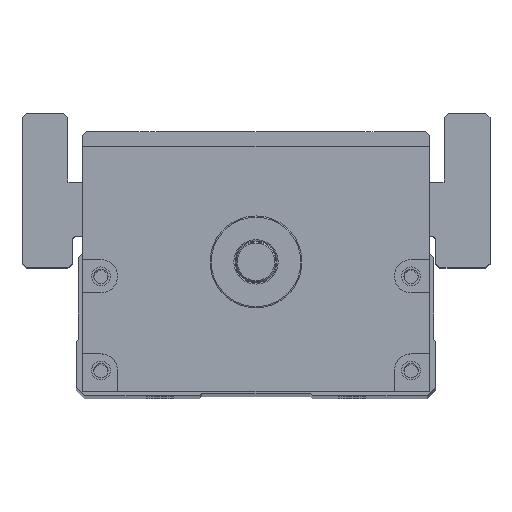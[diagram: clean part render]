
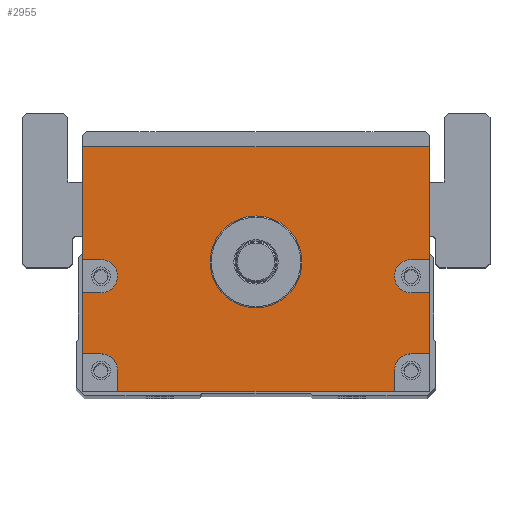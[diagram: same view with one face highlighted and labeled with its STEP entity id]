
A CAD part, top view. The second image highlights one B-rep face of the part: STEP entity #2955.
In plain terms, the highlighted planar face has unit normal (0, 0, 1).
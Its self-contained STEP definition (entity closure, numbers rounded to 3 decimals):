
#611=LINE('',#24771,#1400);
#613=LINE('',#24779,#1402);
#614=LINE('',#24782,#1403);
#615=LINE('',#24784,#1404);
#616=LINE('',#24788,#1405);
#617=LINE('',#24790,#1406);
#618=LINE('',#24791,#1407);
#619=LINE('',#24793,#1408);
#620=LINE('',#24797,#1409);
#621=LINE('',#24799,#1410);
#622=LINE('',#24801,#1411);
#623=LINE('',#24805,#1412);
#624=LINE('',#24807,#1413);
#625=LINE('',#24809,#1414);
#1400=VECTOR('',#13047,1.);
#1402=VECTOR('',#13055,1.);
#1403=VECTOR('',#13056,1.);
#1404=VECTOR('',#13057,1.);
#1405=VECTOR('',#13060,1.);
#1406=VECTOR('',#13061,1.);
#1407=VECTOR('',#13062,1.);
#1408=VECTOR('',#13063,1.);
#1409=VECTOR('',#13066,1.);
#1410=VECTOR('',#13067,1.);
#1411=VECTOR('',#13068,1.);
#1412=VECTOR('',#13071,1.);
#1413=VECTOR('',#13072,1.);
#1414=VECTOR('',#13073,1.);
#2955=ADVANCED_FACE('',(#3924,#3925),#3483,.T.);
#3483=PLANE('',#11471);
#3924=FACE_BOUND('',#4539,.T.);
#3925=FACE_BOUND('',#4540,.T.);
#4539=EDGE_LOOP('',(#6089,#6090,#6091,#6092,#6093,#6094,#6095,#6096,#6097,
#6098,#6099,#6100,#6101,#6102,#6103,#6104,#6105,#6106));
#4540=EDGE_LOOP('',(#6107));
#6089=ORIENTED_EDGE('',*,*,#9674,.F.);
#6090=ORIENTED_EDGE('',*,*,#9675,.T.);
#6091=ORIENTED_EDGE('',*,*,#9676,.F.);
#6092=ORIENTED_EDGE('',*,*,#9677,.F.);
#6093=ORIENTED_EDGE('',*,*,#9678,.F.);
#6094=ORIENTED_EDGE('',*,*,#9679,.T.);
#6095=ORIENTED_EDGE('',*,*,#9670,.T.);
#6096=ORIENTED_EDGE('',*,*,#9680,.T.);
#6097=ORIENTED_EDGE('',*,*,#9681,.F.);
#6098=ORIENTED_EDGE('',*,*,#9682,.F.);
#6099=ORIENTED_EDGE('',*,*,#9683,.F.);
#6100=ORIENTED_EDGE('',*,*,#9684,.T.);
#6101=ORIENTED_EDGE('',*,*,#9685,.F.);
#6102=ORIENTED_EDGE('',*,*,#9686,.F.);
#6103=ORIENTED_EDGE('',*,*,#9687,.F.);
#6104=ORIENTED_EDGE('',*,*,#9688,.T.);
#6105=ORIENTED_EDGE('',*,*,#9689,.F.);
#6106=ORIENTED_EDGE('',*,*,#9690,.F.);
#6107=ORIENTED_EDGE('',*,*,#9656,.T.);
#8465=VERTEX_POINT('',#24742);
#8478=VERTEX_POINT('',#24770);
#8479=VERTEX_POINT('',#24772);
#8482=VERTEX_POINT('',#24780);
#8483=VERTEX_POINT('',#24781);
#8484=VERTEX_POINT('',#24783);
#8485=VERTEX_POINT('',#24785);
#8486=VERTEX_POINT('',#24787);
#8487=VERTEX_POINT('',#24789);
#8488=VERTEX_POINT('',#24792);
#8489=VERTEX_POINT('',#24794);
#8490=VERTEX_POINT('',#24796);
#8491=VERTEX_POINT('',#24798);
#8492=VERTEX_POINT('',#24800);
#8493=VERTEX_POINT('',#24802);
#8494=VERTEX_POINT('',#24804);
#8495=VERTEX_POINT('',#24806);
#8496=VERTEX_POINT('',#24808);
#8497=VERTEX_POINT('',#24810);
#9656=EDGE_CURVE('',#8465,#8465,#10834,.T.);
#9670=EDGE_CURVE('',#8479,#8478,#611,.T.);
#9674=EDGE_CURVE('',#8482,#8483,#613,.T.);
#9675=EDGE_CURVE('',#8482,#8484,#614,.T.);
#9676=EDGE_CURVE('',#8485,#8484,#615,.T.);
#9677=EDGE_CURVE('',#8486,#8485,#10845,.T.);
#9678=EDGE_CURVE('',#8487,#8486,#616,.T.);
#9679=EDGE_CURVE('',#8487,#8479,#617,.T.);
#9680=EDGE_CURVE('',#8478,#8488,#618,.T.);
#9681=EDGE_CURVE('',#8489,#8488,#619,.T.);
#9682=EDGE_CURVE('',#8490,#8489,#10846,.T.);
#9683=EDGE_CURVE('',#8491,#8490,#620,.T.);
#9684=EDGE_CURVE('',#8491,#8492,#621,.T.);
#9685=EDGE_CURVE('',#8493,#8492,#622,.T.);
#9686=EDGE_CURVE('',#8494,#8493,#10847,.T.);
#9687=EDGE_CURVE('',#8495,#8494,#623,.T.);
#9688=EDGE_CURVE('',#8495,#8496,#624,.T.);
#9689=EDGE_CURVE('',#8497,#8496,#625,.T.);
#9690=EDGE_CURVE('',#8483,#8497,#10848,.T.);
#10834=CIRCLE('',#11453,11.);
#10845=CIRCLE('',#11467,4.);
#10846=CIRCLE('',#11468,4.);
#10847=CIRCLE('',#11469,4.);
#10848=CIRCLE('',#11470,4.);
#11453=AXIS2_PLACEMENT_3D('',#24741,#13020,#13021);
#11467=AXIS2_PLACEMENT_3D('',#24786,#13058,#13059);
#11468=AXIS2_PLACEMENT_3D('',#24795,#13064,#13065);
#11469=AXIS2_PLACEMENT_3D('',#24803,#13069,#13070);
#11470=AXIS2_PLACEMENT_3D('',#24811,#13074,#13075);
#11471=AXIS2_PLACEMENT_3D('',#24812,#13076,#13077);
#13020=DIRECTION('',(0.,0.,-1.));
#13021=DIRECTION('',(1.,0.,0.));
#13047=DIRECTION('',(-1.,0.,0.));
#13055=DIRECTION('',(-1.,0.,0.));
#13056=DIRECTION('',(0.,1.,0.));
#13057=DIRECTION('',(1.,0.,0.));
#13058=DIRECTION('',(0.,0.,1.));
#13059=DIRECTION('',(1.,0.,0.));
#13060=DIRECTION('',(-1.,0.,0.));
#13061=DIRECTION('',(0.,1.,0.));
#13062=DIRECTION('',(0.,-1.,0.));
#13063=DIRECTION('',(-1.,0.,0.));
#13064=DIRECTION('',(0.,0.,1.));
#13065=DIRECTION('',(1.,0.,0.));
#13066=DIRECTION('',(1.,0.,0.));
#13067=DIRECTION('',(0.,-1.,0.));
#13068=DIRECTION('',(-1.,0.,0.));
#13069=DIRECTION('',(0.,0.,1.));
#13070=DIRECTION('',(1.,0.,0.));
#13071=DIRECTION('',(0.,1.,0.));
#13072=DIRECTION('',(1.,0.,0.));
#13073=DIRECTION('',(0.,-1.,0.));
#13074=DIRECTION('',(0.,0.,1.));
#13075=DIRECTION('',(1.,0.,0.));
#13076=DIRECTION('',(0.,0.,1.));
#13077=DIRECTION('',(1.,0.,0.));
#24741=CARTESIAN_POINT('',(600.,0.,282.5));
#24742=CARTESIAN_POINT('',(611.,0.,282.5));
#24770=CARTESIAN_POINT('',(558.5,27.5,282.5));
#24771=CARTESIAN_POINT('',(641.5,27.5,282.5));
#24772=CARTESIAN_POINT('',(641.5,27.5,282.5));
#24779=CARTESIAN_POINT('',(641.5,-22.,282.5));
#24780=CARTESIAN_POINT('',(641.5,-22.,282.5));
#24781=CARTESIAN_POINT('',(637.115,-22.,282.5));
#24782=CARTESIAN_POINT('',(641.5,-31.,282.5));
#24783=CARTESIAN_POINT('',(641.5,-7.431,282.5));
#24784=CARTESIAN_POINT('',(641.5,-7.431,282.5));
#24785=CARTESIAN_POINT('',(637.115,-7.431,282.5));
#24786=CARTESIAN_POINT('',(637.115,-3.431,282.5));
#24787=CARTESIAN_POINT('',(637.115,0.569,282.5));
#24788=CARTESIAN_POINT('',(641.5,0.569,282.5));
#24789=CARTESIAN_POINT('',(641.5,0.569,282.5));
#24790=CARTESIAN_POINT('',(641.5,-31.,282.5));
#24791=CARTESIAN_POINT('',(558.5,27.5,282.5));
#24792=CARTESIAN_POINT('',(558.5,0.569,282.5));
#24793=CARTESIAN_POINT('',(641.5,0.569,282.5));
#24794=CARTESIAN_POINT('',(562.885,0.569,282.5));
#24795=CARTESIAN_POINT('',(562.885,-3.431,282.5));
#24796=CARTESIAN_POINT('',(562.885,-7.431,282.5));
#24797=CARTESIAN_POINT('',(641.5,-7.431,282.5));
#24798=CARTESIAN_POINT('',(558.5,-7.431,282.5));
#24799=CARTESIAN_POINT('',(558.5,27.5,282.5));
#24800=CARTESIAN_POINT('',(558.5,-22.,282.5));
#24801=CARTESIAN_POINT('',(641.5,-22.,282.5));
#24802=CARTESIAN_POINT('',(562.885,-22.,282.5));
#24803=CARTESIAN_POINT('',(562.885,-26.,282.5));
#24804=CARTESIAN_POINT('',(566.885,-26.,282.5));
#24805=CARTESIAN_POINT('',(566.885,-31.,282.5));
#24806=CARTESIAN_POINT('',(566.885,-31.,282.5));
#24807=CARTESIAN_POINT('',(558.5,-31.,282.5));
#24808=CARTESIAN_POINT('',(633.115,-31.,282.5));
#24809=CARTESIAN_POINT('',(633.115,-31.,282.5));
#24810=CARTESIAN_POINT('',(633.115,-26.,282.5));
#24811=CARTESIAN_POINT('',(637.115,-26.,282.5));
#24812=CARTESIAN_POINT('',(641.5,-31.,282.5));
